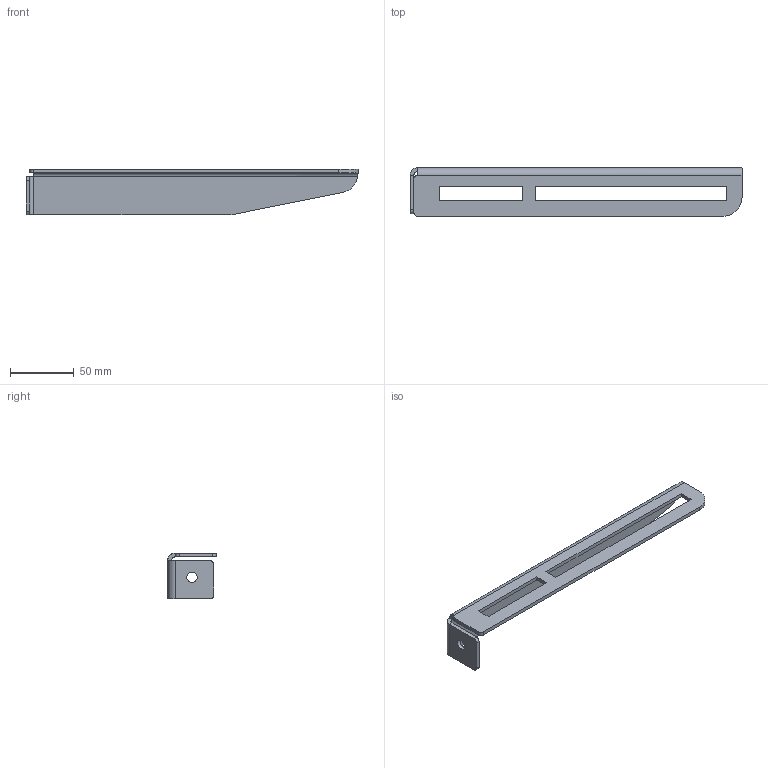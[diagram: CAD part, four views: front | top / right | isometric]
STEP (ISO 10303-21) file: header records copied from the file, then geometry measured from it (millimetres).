
FILE_DESCRIPTION(/* description */ ('GUIDE RAIL BRACKET 260 MM '),/* implementation_level */ '2;1');
FILE_NAME(/* name */ '\\carryline.intra\privat\users\mathias\Desktop\Tillfälliga filer\300-2260.stp',/* time_stamp */ '2018-11-30T09:38:25+01:00',/* author */ ('PL'),/* organization */ ('CARRYLINE'),/* preprocessor_version */ 'ST-DEVELOPER v17',/* originating_system */ 'Autodesk Inventor 2018',/* authorisation */ '');
FILE_SCHEMA (('AUTOMOTIVE_DESIGN { 1 0 10303 214 3 1 1 }'));
Length unit declared in the file: millimetre
Products named in the file (1): 300-2260
Bounding box: 260 x 38 x 36 mm (x, y, z)
Volume: 45746.7 mm3; surface area: 34074.2 mm2
Topology: 1 solids, 1 shells, 38 faces, 96 edges, 60 vertices
Faces by surface type: plane 26, cylinder 12
Full cylindrical faces by diameter (mm): 8.1 x1
Entity records: 1189 total; most frequent: CARTESIAN_POINT 207, DIRECTION 198, ORIENTED_EDGE 192, EDGE_CURVE 96, LINE 68, VECTOR 68, AXIS2_PLACEMENT_3D 65, VERTEX_POINT 60
